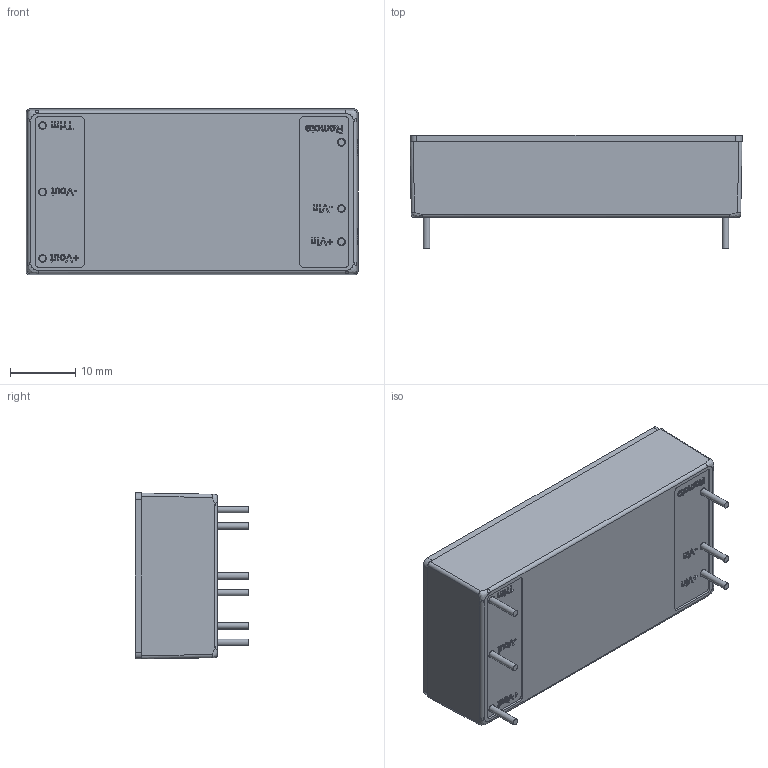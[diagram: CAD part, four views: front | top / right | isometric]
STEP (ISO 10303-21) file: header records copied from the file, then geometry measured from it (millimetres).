
FILE_DESCRIPTION (( 'STEP AP203' ), '1' );
FILE_NAME ('ECB40W18 2024.12.27.STEP', '2024-12-27T05:46:02', ( '' ), ( '' ), 'SwSTEP 2.0', 'SolidWorks 2020', '' );
FILE_SCHEMA (( 'CONFIG_CONTROL_DESIGN' ));
Length unit declared in the file: millimetre
Products named in the file (1): ECB40W18 2024.12.27
Bounding box: 50.8 x 17.4 x 25.4 mm (x, y, z)
Volume: 15988.6 mm3; surface area: 4586.1 mm2
Topology: 1 solids, 1 shells, 435 faces, 1269 edges, 890 vertices
Faces by surface type: plane 279, bspline 124, cylinder 32
Full cylindrical faces by diameter (mm): 1 x6, 1.2 x6
Entity records: 23326 total; most frequent: CARTESIAN_POINT 12799, ORIENTED_EDGE 2502, DIRECTION 1525, EDGE_CURVE 1251, VERTEX_POINT 884, VECTOR 805, LINE 805, EDGE_LOOP 501
